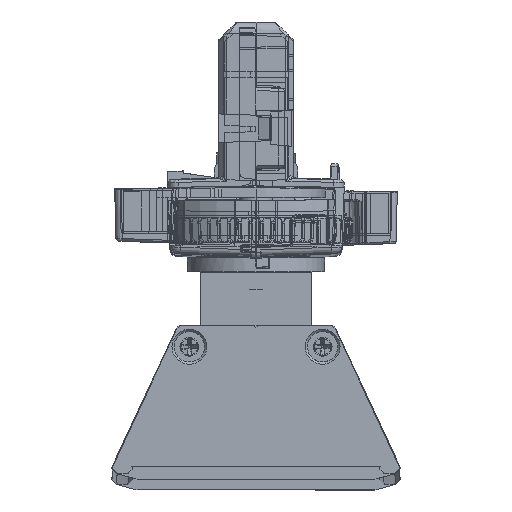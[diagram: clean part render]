
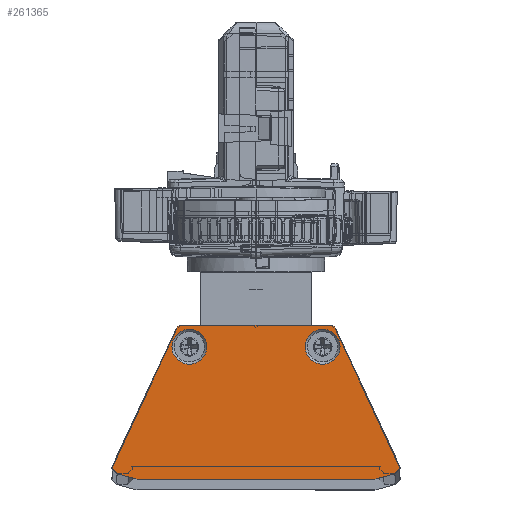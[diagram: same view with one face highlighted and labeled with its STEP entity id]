
A CAD part, top view. The second image highlights one B-rep face of the part: STEP entity #261365.
In plain terms, the highlighted planar face has unit normal (0, 0, 1).
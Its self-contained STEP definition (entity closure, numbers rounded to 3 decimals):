
#164 = LINE ( 'NONE', #142518, #173416 ) ;
#6018 = LINE ( 'NONE', #325204, #354031 ) ;
#7868 = AXIS2_PLACEMENT_3D ( 'NONE', #104675, #19233, #106545 ) ;
#10393 = VERTEX_POINT ( 'NONE', #95469 ) ;
#11461 = CARTESIAN_POINT ( 'NONE',  ( -25.265, -2.279, 3. ) ) ;
#13459 = DIRECTION ( 'NONE',  ( 0., 0., 1. ) ) ;
#19233 = DIRECTION ( 'NONE',  ( 0., 0., -1. ) ) ;
#20443 = CARTESIAN_POINT ( 'NONE',  ( -14.394, 23.884, 3. ) ) ;
#28051 = EDGE_CURVE ( 'NONE', #112511, #68832, #233206, .T. ) ;
#31019 = AXIS2_PLACEMENT_3D ( 'NONE', #277582, #13459, #281321 ) ;
#32221 = VERTEX_POINT ( 'NONE', #212260 ) ;
#33075 = EDGE_LOOP ( 'NONE', ( #102116 ) ) ;
#36335 = DIRECTION ( 'NONE',  ( 0., 0., 1. ) ) ;
#37860 = EDGE_CURVE ( 'NONE', #258675, #32221, #164, .T. ) ;
#40780 = CARTESIAN_POINT ( 'NONE',  ( 13.397, 24.519, 3. ) ) ;
#42990 = CARTESIAN_POINT ( 'NONE',  ( 21.513, -3.332, 3. ) ) ;
#43499 = ORIENTED_EDGE ( 'NONE', *, *, #220882, .T. ) ;
#47565 = DIRECTION ( 'NONE',  ( 1., 0., 0. ) ) ;
#58893 = CARTESIAN_POINT ( 'NONE',  ( 25.017, -2.031, 3. ) ) ;
#61493 = VECTOR ( 'NONE', #151868, 1000. ) ;
#63190 = VERTEX_POINT ( 'NONE', #40780 ) ;
#64834 = DIRECTION ( 'NONE',  ( 1., 0., 0. ) ) ;
#67209 = EDGE_CURVE ( 'NONE', #132066, #63190, #330734, .T. ) ;
#68407 = CIRCLE ( 'NONE', #123111, 0.35 ) ;
#68832 = VERTEX_POINT ( 'NONE', #11461 ) ;
#70352 = VECTOR ( 'NONE', #372211, 1000. ) ;
#70974 = ORIENTED_EDGE ( 'NONE', *, *, #135196, .F. ) ;
#75813 = PLANE ( 'NONE',  #325082 ) ;
#77152 = ORIENTED_EDGE ( 'NONE', *, *, #235283, .F. ) ;
#79514 = VECTOR ( 'NONE', #211968, 1000. ) ;
#80583 = CIRCLE ( 'NONE', #305260, 1.1 ) ;
#81059 = CARTESIAN_POINT ( 'NONE',  ( -25.017, -2.031, 3. ) ) ;
#83154 = EDGE_CURVE ( 'NONE', #68832, #191583, #176602, .T. ) ;
#83360 = LINE ( 'NONE', #170643, #70352 ) ;
#83736 = DIRECTION ( 'NONE',  ( 0.966, 0.259, 0. ) ) ;
#86787 = CARTESIAN_POINT ( 'NONE',  ( 25.265, -2.279, 3. ) ) ;
#89755 = EDGE_CURVE ( 'NONE', #132066, #292424, #80583, .T. ) ;
#91581 = ORIENTED_EDGE ( 'NONE', *, *, #89755, .T. ) ;
#95469 = CARTESIAN_POINT ( 'NONE',  ( -26.067, -1.15, 3. ) ) ;
#95784 = ORIENTED_EDGE ( 'NONE', *, *, #37860, .T. ) ;
#96072 = LINE ( 'NONE', #248016, #79514 ) ;
#97032 = ORIENTED_EDGE ( 'NONE', *, *, #83154, .F. ) ;
#98014 = ORIENTED_EDGE ( 'NONE', *, *, #28051, .F. ) ;
#99259 = DIRECTION ( 'NONE',  ( 1., 0., 0. ) ) ;
#102116 = ORIENTED_EDGE ( 'NONE', *, *, #248738, .F. ) ;
#104675 = CARTESIAN_POINT ( 'NONE',  ( 13.397, 23.419, 3. ) ) ;
#106545 = DIRECTION ( 'NONE',  ( 1., 0., 0. ) ) ;
#107294 = ORIENTED_EDGE ( 'NONE', *, *, #288217, .T. ) ;
#111404 = CIRCLE ( 'NONE', #287552, 0.35 ) ;
#112511 = VERTEX_POINT ( 'NONE', #137354 ) ;
#114109 = CIRCLE ( 'NONE', #120274, 3.15 ) ;
#120274 = AXIS2_PLACEMENT_3D ( 'NONE', #268420, #129416, #274006 ) ;
#122492 = CIRCLE ( 'NONE', #334984, 3.15 ) ;
#123088 = CARTESIAN_POINT ( 'NONE',  ( -25.75, -1.298, 3. ) ) ;
#123111 = AXIS2_PLACEMENT_3D ( 'NONE', #123088, #239082, #204892 ) ;
#129416 = DIRECTION ( 'NONE',  ( 0., 0., 1. ) ) ;
#130821 = CARTESIAN_POINT ( 'NONE',  ( 0., 0., 3. ) ) ;
#132066 = VERTEX_POINT ( 'NONE', #285114 ) ;
#135196 = EDGE_CURVE ( 'NONE', #63190, #246311, #335496, .T. ) ;
#135300 = CARTESIAN_POINT ( 'NONE',  ( 14.394, 23.884, 3. ) ) ;
#137354 = CARTESIAN_POINT ( 'NONE',  ( -25.108, -2.369, 3. ) ) ;
#140480 = CARTESIAN_POINT ( 'NONE',  ( -21.513, -3.332, 3. ) ) ;
#142518 = CARTESIAN_POINT ( 'NONE',  ( 2.274, -8.487, 3. ) ) ;
#145655 = EDGE_CURVE ( 'NONE', #314470, #258675, #372597, .T. ) ;
#151868 = DIRECTION ( 'NONE',  ( -0.707, 0.707, 0. ) ) ;
#152104 = EDGE_CURVE ( 'NONE', #10393, #292424, #83360, .T. ) ;
#153496 = ORIENTED_EDGE ( 'NONE', *, *, #67209, .F. ) ;
#163086 = EDGE_CURVE ( 'NONE', #180934, #240881, #96072, .T. ) ;
#163711 = EDGE_CURVE ( 'NONE', #171036, #246311, #206150, .T. ) ;
#170643 = CARTESIAN_POINT ( 'NONE',  ( -20.971, 9.779, 3. ) ) ;
#171036 = VERTEX_POINT ( 'NONE', #371193 ) ;
#171948 = CARTESIAN_POINT ( 'NONE',  ( 20.971, 9.779, 3. ) ) ;
#172732 = ORIENTED_EDGE ( 'NONE', *, *, #163086, .T. ) ;
#173416 = VECTOR ( 'NONE', #83736, 1000. ) ;
#174607 = DIRECTION ( 'NONE',  ( 1., 0., 0. ) ) ;
#176602 = LINE ( 'NONE', #205229, #61493 ) ;
#178938 = ORIENTED_EDGE ( 'NONE', *, *, #152104, .F. ) ;
#180934 = VERTEX_POINT ( 'NONE', #86787 ) ;
#188695 = VECTOR ( 'NONE', #230991, 1000. ) ;
#189729 = FACE_OUTER_BOUND ( 'NONE', #289673, .T. ) ;
#191583 = VERTEX_POINT ( 'NONE', #344307 ) ;
#191623 = DIRECTION ( 'NONE',  ( 0., 0., 1. ) ) ;
#196500 = ORIENTED_EDGE ( 'NONE', *, *, #163711, .T. ) ;
#203392 = VERTEX_POINT ( 'NONE', #258684 ) ;
#204037 = VECTOR ( 'NONE', #233838, 1000. ) ;
#204892 = DIRECTION ( 'NONE',  ( 1., 0., 0. ) ) ;
#205229 = CARTESIAN_POINT ( 'NONE',  ( -13.772, -13.772, 3. ) ) ;
#206150 = LINE ( 'NONE', #171948, #188695 ) ;
#209187 = CARTESIAN_POINT ( 'NONE',  ( -13.397, 23.419, 3. ) ) ;
#211968 = DIRECTION ( 'NONE',  ( 0.707, 0.707, 0. ) ) ;
#212260 = CARTESIAN_POINT ( 'NONE',  ( 25.108, -2.369, 3. ) ) ;
#219548 = ORIENTED_EDGE ( 'NONE', *, *, #145655, .T. ) ;
#220217 = FACE_BOUND ( 'NONE', #33075, .T. ) ;
#220882 = EDGE_CURVE ( 'NONE', #240881, #171036, #255643, .T. ) ;
#222103 = DIRECTION ( 'NONE',  ( 1., 0., 0. ) ) ;
#224073 = EDGE_CURVE ( 'NONE', #191583, #10393, #68407, .T. ) ;
#230991 = DIRECTION ( 'NONE',  ( -0.423, 0.906, 0. ) ) ;
#231776 = DIRECTION ( 'NONE',  ( 0., 0., 1. ) ) ;
#233206 = CIRCLE ( 'NONE', #342274, 0.35 ) ;
#233838 = DIRECTION ( 'NONE',  ( 1., 0., 0. ) ) ;
#235283 = EDGE_CURVE ( 'NONE', #314470, #112511, #6018, .T. ) ;
#239082 = DIRECTION ( 'NONE',  ( 0., 0., -1. ) ) ;
#240881 = VERTEX_POINT ( 'NONE', #374061 ) ;
#246311 = VERTEX_POINT ( 'NONE', #135300 ) ;
#248016 = CARTESIAN_POINT ( 'NONE',  ( 13.772, -13.772, 3. ) ) ;
#248738 = EDGE_CURVE ( 'NONE', #203392, #203392, #114109, .T. ) ;
#255643 = CIRCLE ( 'NONE', #31019, 0.35 ) ;
#255926 = DIRECTION ( 'NONE',  ( 0., 0., -1. ) ) ;
#258675 = VERTEX_POINT ( 'NONE', #42990 ) ;
#258684 = CARTESIAN_POINT ( 'NONE',  ( -8.9, 20.594, 3. ) ) ;
#260576 = VERTEX_POINT ( 'NONE', #319485 ) ;
#261365 = ADVANCED_FACE ( 'NONE', ( #330513, #220217, #189729 ), #75813, .T. ) ;
#262406 = CARTESIAN_POINT ( 'NONE',  ( 0., -3.332, 3. ) ) ;
#268420 = CARTESIAN_POINT ( 'NONE',  ( -12.05, 20.594, 3. ) ) ;
#271968 = DIRECTION ( 'NONE',  ( -0.966, 0.259, 0. ) ) ;
#274006 = DIRECTION ( 'NONE',  ( 1., 0., 0. ) ) ;
#276962 = DIRECTION ( 'NONE',  ( 1., 0., 0. ) ) ;
#277582 = CARTESIAN_POINT ( 'NONE',  ( 25.75, -1.298, 3. ) ) ;
#280919 = ORIENTED_EDGE ( 'NONE', *, *, #224073, .F. ) ;
#281321 = DIRECTION ( 'NONE',  ( 1., 0., 0. ) ) ;
#285114 = CARTESIAN_POINT ( 'NONE',  ( -13.397, 24.519, 3. ) ) ;
#285771 = EDGE_CURVE ( 'NONE', #260576, #260576, #122492, .T. ) ;
#287552 = AXIS2_PLACEMENT_3D ( 'NONE', #58893, #231776, #174607 ) ;
#288217 = EDGE_CURVE ( 'NONE', #32221, #180934, #111404, .T. ) ;
#289673 = EDGE_LOOP ( 'NONE', ( #98014, #77152, #219548, #95784, #107294, #172732, #43499, #196500, #70974, #153496, #91581, #178938, #280919, #97032 ) ) ;
#292424 = VERTEX_POINT ( 'NONE', #20443 ) ;
#300832 = CARTESIAN_POINT ( 'NONE',  ( 12.05, 20.594, 3. ) ) ;
#305260 = AXIS2_PLACEMENT_3D ( 'NONE', #209187, #36335, #64834 ) ;
#310367 = EDGE_LOOP ( 'NONE', ( #368238 ) ) ;
#314470 = VERTEX_POINT ( 'NONE', #140480 ) ;
#319485 = CARTESIAN_POINT ( 'NONE',  ( 15.2, 20.594, 3. ) ) ;
#325082 = AXIS2_PLACEMENT_3D ( 'NONE', #130821, #191623, #222103 ) ;
#325204 = CARTESIAN_POINT ( 'NONE',  ( -2.274, -8.487, 3. ) ) ;
#330513 = FACE_BOUND ( 'NONE', #310367, .T. ) ;
#330734 = LINE ( 'NONE', #364855, #356292 ) ;
#334984 = AXIS2_PLACEMENT_3D ( 'NONE', #300832, #355928, #99259 ) ;
#335496 = CIRCLE ( 'NONE', #7868, 1.1 ) ;
#342274 = AXIS2_PLACEMENT_3D ( 'NONE', #81059, #255926, #276962 ) ;
#344307 = CARTESIAN_POINT ( 'NONE',  ( -25.997, -1.546, 3. ) ) ;
#354031 = VECTOR ( 'NONE', #271968, 1000. ) ;
#355928 = DIRECTION ( 'NONE',  ( 0., 0., 1. ) ) ;
#356292 = VECTOR ( 'NONE', #47565, 1000. ) ;
#364855 = CARTESIAN_POINT ( 'NONE',  ( 0., 24.519, 3. ) ) ;
#368238 = ORIENTED_EDGE ( 'NONE', *, *, #285771, .F. ) ;
#371193 = CARTESIAN_POINT ( 'NONE',  ( 26.067, -1.15, 3. ) ) ;
#372211 = DIRECTION ( 'NONE',  ( 0.423, 0.906, 0. ) ) ;
#372597 = LINE ( 'NONE', #262406, #204037 ) ;
#374061 = CARTESIAN_POINT ( 'NONE',  ( 25.997, -1.546, 3. ) ) ;
